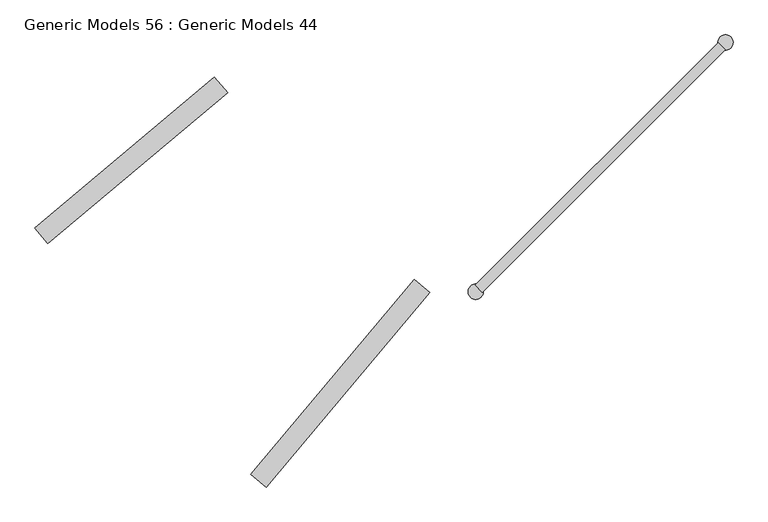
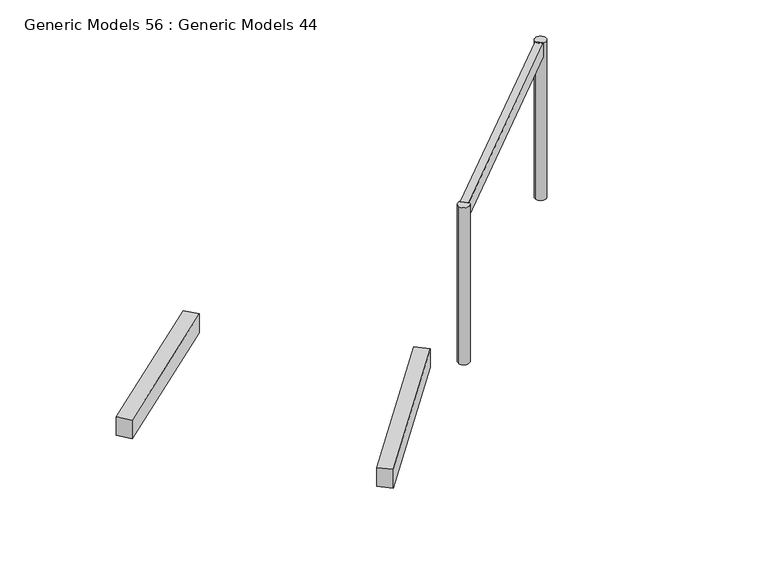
"""IFC4 building model written with IfcOpenShell, lengths in millimetres: proxy geometry, Generic Models 56 : Generic Models 44."""

from ifc_helpers import new_model, si_unit, point, frame, frame_2d, origin, place, context, project, spatial, polyline, circle_curve, trimmed, segment, composite_curve, outline, extrude, source, transform, mapped, element, save


def generic_models_56_generic_models_44_0c6a0674(model_context):
    return source(origin(), model_context, "Body", "SweptSolid", [
        extrude(outline(polyline([(-68098.207321, -35737.0994253), (-68251.4162096, -35608.5419033), (-66640.388857, -33688.5942681), (-66487.1799684, -33817.1517901), (-68098.207321, -35737.0994253)])), frame((0.0, 0.0, 42770.0), z_axis=(0.0, 0.0, 1.0), x_axis=(1.0, 0.0, 0.0)), (0.0, 0.0, 1.0), 268.5053554),
        extrude(outline(polyline([(-70247.2341625, -33333.9533005), (-70375.7916845, -33180.7444118), (-68607.42401, -31696.9077484), (-68478.8664881, -31850.116637), (-70247.2341625, -33333.9533005)])), frame((0.0, 0.0, 42770.0), z_axis=(0.0, 0.0, 1.0), x_axis=(1.0, 0.0, 0.0)), (0.0, 0.0, 1.0), 268.5053554),
        extrude(outline(polyline([(-65969.3976432, -33817.7796088), (-66040.1083213, -33747.0689307), (-63647.3932838, -31354.3538932), (-63576.6826057, -31425.0645713), (-65969.3976432, -33817.7796088)])), frame((0.0, 0.0, 44746.1646464), z_axis=(0.0, 0.0, 1.0), x_axis=(1.0, 0.0, 0.0)), (0.0, 0.0, 1.0), 195.4634247),
        extrude(outline(composite_curve([segment(trimmed(circle_curve(frame_2d((-66034.4648446, -33810.9678051)), 75.0), [point((-66109.4648446, -33810.9678051))], [point((-65959.4648446, -33810.9678051))], False, "CARTESIAN"), True, "CONTINUOUS"), segment(trimmed(circle_curve(frame_2d((-66034.4648446, -33810.9678051)), 75.0), [point((-65959.4648446, -33810.9678051))], [point((-66109.4648446, -33810.9678051))], False, "CARTESIAN"), True, "CONTINUOUS")], self_intersect=False)), frame((0.0, 0.0, 42695.9057084), z_axis=(0.0, 0.0, 1.0), x_axis=(1.0, 0.0, 0.0)), (0.0, 0.0, 1.0), 2245.7223627),
        extrude(outline(composite_curve([segment(trimmed(circle_curve(frame_2d((-63574.2761154, -31353.5552475)), 75.0), [point((-63649.2761154, -31353.5552475))], [point((-63499.2761154, -31353.5552475))], False, "CARTESIAN"), True, "CONTINUOUS"), segment(trimmed(circle_curve(frame_2d((-63574.2761154, -31353.5552475)), 75.0), [point((-63499.2761154, -31353.5552475))], [point((-63649.2761154, -31353.5552475))], False, "CARTESIAN"), True, "CONTINUOUS")], self_intersect=False)), frame((0.0, 0.0, 42695.9057084), z_axis=(0.0, 0.0, 1.0), x_axis=(1.0, 0.0, 0.0)), (0.0, 0.0, 1.0), 2245.7223627),
    ])


if __name__ == "__main__":
    model = new_model("IFC4")
    model_context = context("Model", 3, world=origin())
    ifc_project = project(units=[si_unit("LENGTHUNIT", "METRE", prefix="MILLI")], contexts=[model_context])
    site = spatial("IfcSite", under=ifc_project)
    building = spatial("IfcBuilding", under=site)
    placement = place(None, origin())
    generic_models_56_generic_models_44_shape = generic_models_56_generic_models_44_0c6a0674(model_context)
    element("IfcBuildingElementProxy", 1, Name="Generic Models 56 : Generic Models 44", ObjectType="Generic Models 56 : Generic Models 44", at=placement, inside=building, context=model_context, shape_type="MappedRepresentation", body=[
        mapped(generic_models_56_generic_models_44_shape, transform((0.0, 0.0, 0.0), x_axis=(1.0, 0.0, 0.0), y_axis=(0.0, 1.0, 0.0), z_axis=(0.0, 0.0, 1.0))),
    ])
    save(model, "model.ifc")
